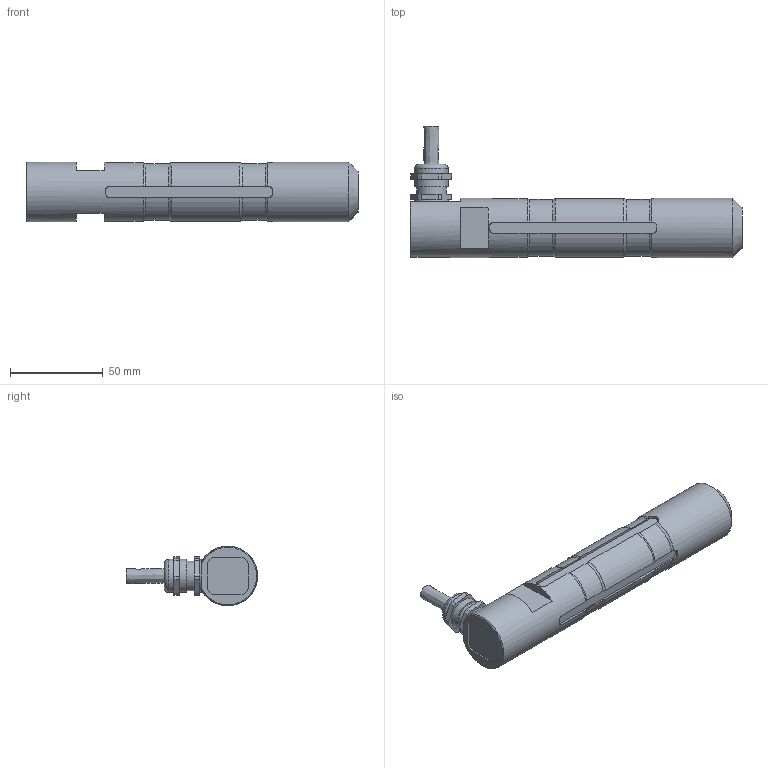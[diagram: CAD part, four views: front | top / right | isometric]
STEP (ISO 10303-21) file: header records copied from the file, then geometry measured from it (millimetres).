
FILE_DESCRIPTION(/* description */ ('Alibre Inc.'),/* implementation_level */ '2;1');
FILE_NAME(/* name */ 'export0',/* time_stamp */ '2012-04-17T21:35:02+02:00',/* author */ (''),/* organization */ (''),/* preprocessor_version */ 'ST-DEVELOPER v10',/* originating_system */ 'Alibre',/* authorisation */ '');
FILE_SCHEMA (('CONFIG_CONTROL_DESIGN'));
Length unit declared in the file: centimetre
Products named in the file (6): ID_1; ID_2; ID_3
Bounding box: 178.5 x 70.45 x 32 mm (x, y, z)
Volume: 140338.9 mm3; surface area: 24324.3 mm2
Topology: 4 solids, 4 shells, 186 faces, 502 edges, 333 vertices
Faces by surface type: plane 92, cylinder 59, torus 18, bspline 14, cone 3
Full cylindrical faces by diameter (mm): 8 x1, 14.376 x1, 16 x2, 18 x2, 32 x2
Entity records: 6604 total; most frequent: CARTESIAN_POINT 1879, ORIENTED_EDGE 968, DIRECTION 644, EDGE_CURVE 484, VERTEX_POINT 329, VECTOR 280, LINE 280, AXIS2_PLACEMENT_3D 228
